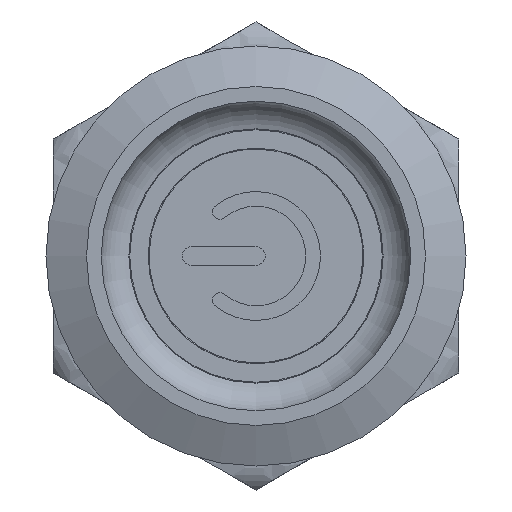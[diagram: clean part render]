
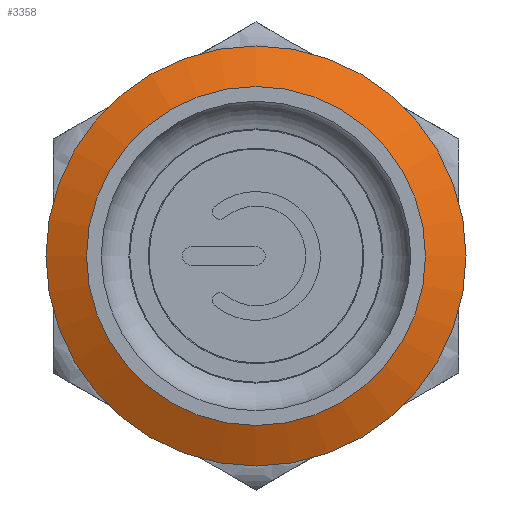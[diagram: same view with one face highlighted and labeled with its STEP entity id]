
A CAD part, left-side view. The second image highlights one B-rep face of the part: STEP entity #3358.
In plain terms, the highlighted conical face has half-angle 65.556 degrees and reference radius 11.4 mm.
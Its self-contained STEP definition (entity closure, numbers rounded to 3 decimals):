
#100=CONICAL_SURFACE('',#10738,11.4,65.556);
#3358=ADVANCED_FACE('',(#3766,#3767),#100,.T.);
#3766=FACE_BOUND('',#4175,.T.);
#3767=FACE_BOUND('',#4176,.T.);
#4175=EDGE_LOOP('',(#6243));
#4176=EDGE_LOOP('',(#6244));
#6243=ORIENTED_EDGE('',*,*,#9193,.T.);
#6244=ORIENTED_EDGE('',*,*,#9192,.F.);
#7920=VERTEX_POINT('',#22409);
#7921=VERTEX_POINT('',#22412);
#9192=EDGE_CURVE('',#7920,#7920,#10033,.T.);
#9193=EDGE_CURVE('',#7921,#7921,#10034,.T.);
#10033=CIRCLE('',#10735,11.4);
#10034=CIRCLE('',#10737,9.2);
#10735=AXIS2_PLACEMENT_3D('',#22408,#12782,#12783);
#10737=AXIS2_PLACEMENT_3D('',#22411,#12786,#12787);
#10738=AXIS2_PLACEMENT_3D('',#22413,#12788,#12789);
#12782=DIRECTION('',(1.,0.,0.));
#12783=DIRECTION('',(0.,1.,0.));
#12786=DIRECTION('',(1.,0.,0.));
#12787=DIRECTION('',(0.,1.,0.));
#12788=DIRECTION('',(1.,0.,0.));
#12789=DIRECTION('',(0.,1.,0.));
#22408=CARTESIAN_POINT('',(-22.7,93.,49.98));
#22409=CARTESIAN_POINT('',(-22.7,104.4,49.98));
#22411=CARTESIAN_POINT('',(-23.7,93.,49.98));
#22412=CARTESIAN_POINT('',(-23.7,102.2,49.98));
#22413=CARTESIAN_POINT('',(-22.7,93.,49.98));
